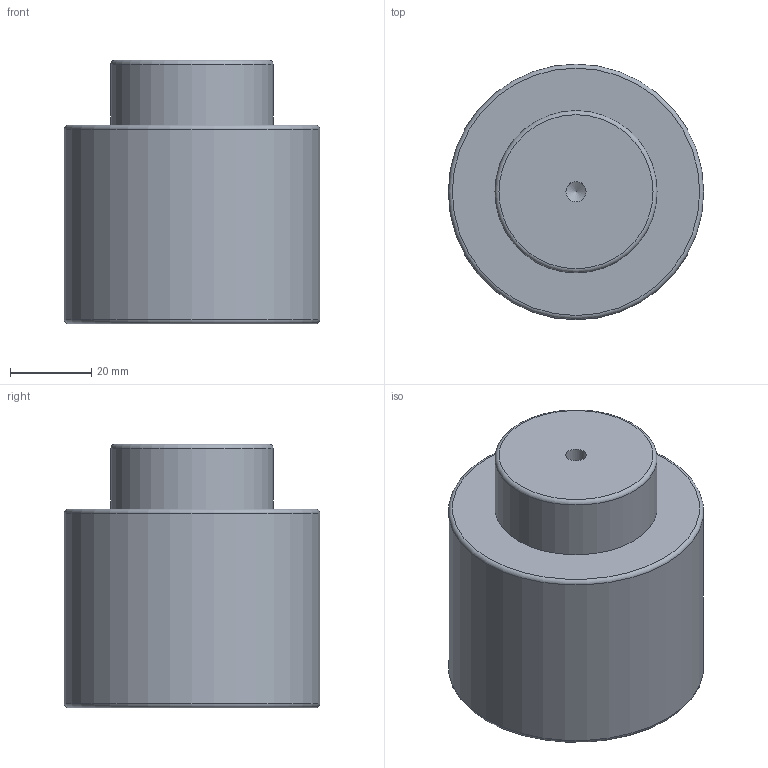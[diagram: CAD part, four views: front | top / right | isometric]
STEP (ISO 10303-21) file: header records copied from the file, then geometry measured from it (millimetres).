
FILE_DESCRIPTION(/* description */ (''),/* implementation_level */ '2;1');
FILE_NAME(/* name */ 'NV5-SMLX.63x15.stp',/* time_stamp */ '2018-08-31T16:08:32+02:00',/* author */ (''),/* organization */ (''),/* preprocessor_version */ 'ST-DEVELOPER v16',/* originating_system */ 'SIEMENS PLM Software NX 10.0',/* authorisation */ '');
FILE_SCHEMA (('AUTOMOTIVE_DESIGN { 1 0 10303 214 3 1 1 1 }'));
Length unit declared in the file: millimetre
Products named in the file (1): NV5-SMLX.63x15
Bounding box: 63 x 63 x 65 mm (x, y, z)
Volume: 171331.2 mm3; surface area: 18437.6 mm2
Topology: 1 solids, 1 shells, 12 faces, 24 edges, 15 vertices
Faces by surface type: cylinder 4, torus 3, plane 3, cone 2
Full cylindrical faces by diameter (mm): 5 x1, 8.5 x1, 40 x1, 63 x1
Entity records: 266 total; most frequent: DIRECTION 48, CARTESIAN_POINT 37, FACE_BOUND 24, AXIS2_PLACEMENT_3D 24, EDGE_LOOP 22, ORIENTED_EDGE 22, VERTEX_POINT 13, ADVANCED_FACE 12
